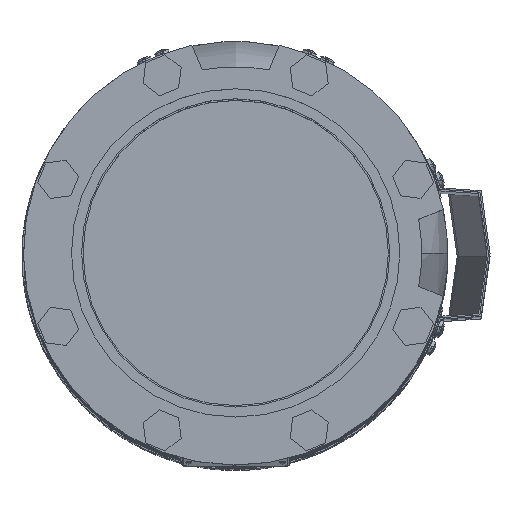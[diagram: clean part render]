
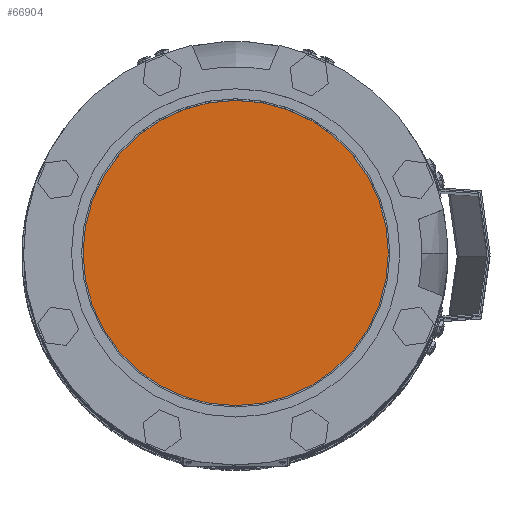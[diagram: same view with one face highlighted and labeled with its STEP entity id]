
A CAD part, top view. The second image highlights one B-rep face of the part: STEP entity #66904.
In plain terms, the highlighted planar face has unit normal (0, 0, 1) as drawn and (0, 1, 0) by its records, which use the part's own axes.
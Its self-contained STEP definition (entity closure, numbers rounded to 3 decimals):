
#596=CIRCLE('',#70510,102.5);
#597=CIRCLE('',#70511,102.5);
#16227=ORIENTED_EDGE('',*,*,#36491,.F.);
#16228=ORIENTED_EDGE('',*,*,#36492,.T.);
#36491=EDGE_CURVE('',#46623,#46624,#596,.T.);
#36492=EDGE_CURVE('',#46623,#46624,#597,.T.);
#46623=VERTEX_POINT('',#96495);
#46624=VERTEX_POINT('',#96496);
#54151=EDGE_LOOP('',(#16227,#16228));
#59014=FACE_BOUND('',#54151,.T.);
#63876=PLANE('',#70509);
#66904=ADVANCED_FACE('',(#59014),#63876,.T.);
#70509=AXIS2_PLACEMENT_3D('',#96493,#77063,#77064);
#70510=AXIS2_PLACEMENT_3D('',#96494,#77065,#77066);
#70511=AXIS2_PLACEMENT_3D('',#96497,#77067,#77068);
#77063=DIRECTION('',(0.,1.,0.));
#77064=DIRECTION('',(-1.,0.,0.));
#77065=DIRECTION('',(0.,-1.,0.));
#77066=DIRECTION('',(-1.,0.,0.));
#77067=DIRECTION('',(0.,1.,0.));
#77068=DIRECTION('',(-1.,0.,0.));
#96493=CARTESIAN_POINT('',(-109.56,216.5,0.));
#96494=CARTESIAN_POINT('',(0.,216.5,0.));
#96495=CARTESIAN_POINT('',(-102.5,216.5,0.));
#96496=CARTESIAN_POINT('',(102.5,216.5,0.));
#96497=CARTESIAN_POINT('',(0.,216.5,0.));
